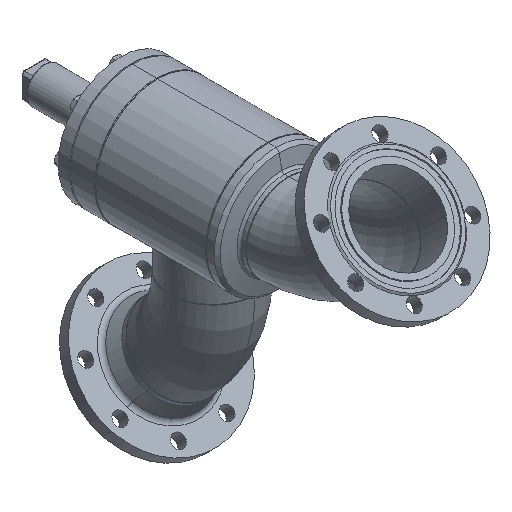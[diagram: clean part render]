
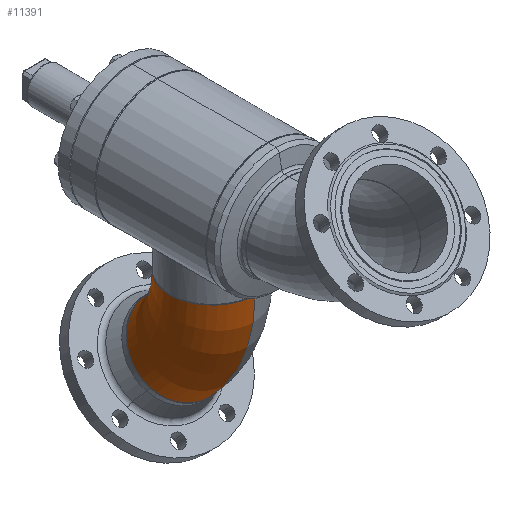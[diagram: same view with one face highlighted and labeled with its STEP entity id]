
A CAD part, isometric view. The second image highlights one B-rep face of the part: STEP entity #11391.
In plain terms, the highlighted toroidal (fillet/blend) face has major radius 229 mm and minor radius 84.15 mm.
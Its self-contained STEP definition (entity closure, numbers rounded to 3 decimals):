
#1137 = FACE_OUTER_BOUND ( 'NONE', #11225, .T. ) ;
#1138 = TOROIDAL_SURFACE ( 'NONE', #1139, 229., 84.15 ) ;
#1139 = AXIS2_PLACEMENT_3D ( 'NONE', #1140, #1141, #1142 ) ;
#1140 = CARTESIAN_POINT ( 'NONE',  ( 0., -229., 0. ) ) ;
#1141 = DIRECTION ( 'NONE',  ( 0., 0., 1. ) ) ;
#1142 = DIRECTION ( 'NONE',  ( 1., 0., 0. ) ) ;
#2358 = ORIENTED_EDGE ( 'NONE', *, *, #7346, .F. ) ;
#4761 = CARTESIAN_POINT ( 'NONE',  ( 221.43, -7.57, 0. ) ) ;
#4901 = CIRCLE ( 'NONE', #4902, 84.15 ) ;
#4902 = AXIS2_PLACEMENT_3D ( 'NONE', #4903, #4904, #4905 ) ;
#4903 = CARTESIAN_POINT ( 'NONE',  ( 161.927, -67.073, 0. ) ) ;
#4904 = DIRECTION ( 'NONE',  ( 0.707, -0.707, 0. ) ) ;
#4905 = DIRECTION ( 'NONE',  ( 0., 0., -1. ) ) ;
#7325 = EDGE_CURVE ( 'NONE', #7477, #7749, #8187, .T. ) ;
#7346 = EDGE_CURVE ( 'NONE', #7631, #7749, #8243, .T. ) ;
#7380 = ORIENTED_EDGE ( 'NONE', *, *, #7325, .T. ) ;
#7477 = VERTEX_POINT ( 'NONE', #9364 ) ;
#7504 = EDGE_CURVE ( 'NONE', #10112, #7477, #9439, .T. ) ;
#7564 = ORIENTED_EDGE ( 'NONE', *, *, #7504, .T. ) ;
#7631 = VERTEX_POINT ( 'NONE', #10178 ) ;
#7749 = VERTEX_POINT ( 'NONE', #10963 ) ;
#8187 = CIRCLE ( 'NONE', #8188, 84.15 ) ;
#8188 = AXIS2_PLACEMENT_3D ( 'NONE', #8189, #8192, #8193 ) ;
#8189 = CARTESIAN_POINT ( 'NONE',  ( 0., 0., 0. ) ) ;
#8192 = DIRECTION ( 'NONE',  ( 1., 0., 0. ) ) ;
#8193 = DIRECTION ( 'NONE',  ( 0., 0., -1. ) ) ;
#8243 = CIRCLE ( 'NONE', #8245, 144.85 ) ;
#8245 = AXIS2_PLACEMENT_3D ( 'NONE', #8246, #8247, #8248 ) ;
#8246 = CARTESIAN_POINT ( 'NONE',  ( 0., -229., 0. ) ) ;
#8247 = DIRECTION ( 'NONE',  ( 0., 0., 1. ) ) ;
#8248 = DIRECTION ( 'NONE',  ( 1., 0., 0. ) ) ;
#9364 = CARTESIAN_POINT ( 'NONE',  ( 0., 84.15, 0. ) ) ;
#9439 = CIRCLE ( 'NONE', #9440, 313.15 ) ;
#9440 = AXIS2_PLACEMENT_3D ( 'NONE', #9441, #9442, #9443 ) ;
#9441 = CARTESIAN_POINT ( 'NONE',  ( 0., -229., 0. ) ) ;
#9442 = DIRECTION ( 'NONE',  ( 0., 0., 1. ) ) ;
#9443 = DIRECTION ( 'NONE',  ( 1., 0., 0. ) ) ;
#10112 = VERTEX_POINT ( 'NONE', #4761 ) ;
#10178 = CARTESIAN_POINT ( 'NONE',  ( 102.424, -126.576, 0. ) ) ;
#10334 = EDGE_CURVE ( 'NONE', #10112, #7631, #4901, .T. ) ;
#10706 = ORIENTED_EDGE ( 'NONE', *, *, #10334, .F. ) ;
#10963 = CARTESIAN_POINT ( 'NONE',  ( 0., -84.15, 0. ) ) ;
#11225 = EDGE_LOOP ( 'NONE', ( #10706, #7564, #7380, #2358 ) ) ;
#11391 = ADVANCED_FACE ( 'NONE', ( #1137 ), #1138, .T. ) ;
